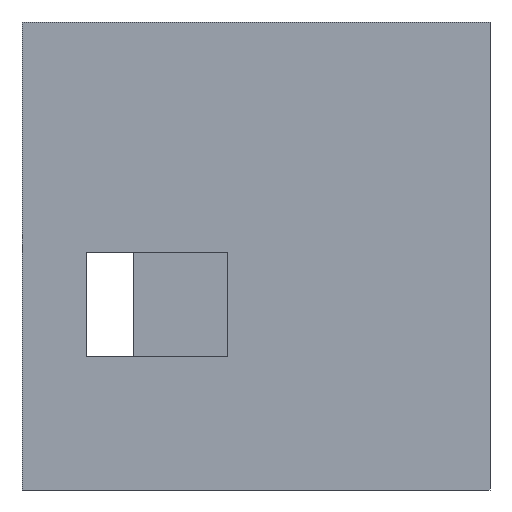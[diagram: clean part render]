
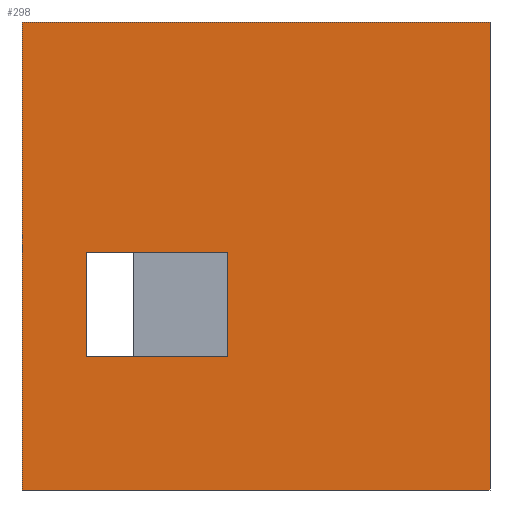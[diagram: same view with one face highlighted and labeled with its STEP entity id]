
A CAD part, front view. The second image highlights one B-rep face of the part: STEP entity #298.
In plain terms, the highlighted planar face has unit normal (0, -1, 0).
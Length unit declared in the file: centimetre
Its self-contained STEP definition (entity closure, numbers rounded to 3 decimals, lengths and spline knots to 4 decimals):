
#9 = LINE ( 'NONE', #518, #332 ) ;
#18 = VERTEX_POINT ( 'NONE', #363 ) ;
#25 = CARTESIAN_POINT ( 'NONE',  ( 137.5001, 0., 285.0967 ) ) ;
#80 = AXIS2_PLACEMENT_3D ( 'NONE', #355, #260, #548 ) ;
#82 = ORIENTED_EDGE ( 'NONE', *, *, #141, .F. ) ;
#83 = CARTESIAN_POINT ( 'NONE',  ( 439.1244, 0., 285.0967 ) ) ;
#95 = CARTESIAN_POINT ( 'NONE',  ( 1000., 0., 0. ) ) ;
#111 = VERTEX_POINT ( 'NONE', #479 ) ;
#122 = EDGE_CURVE ( 'NONE', #211, #483, #9, .T. ) ;
#123 = CARTESIAN_POINT ( 'NONE',  ( 0., 0., 1000. ) ) ;
#132 = DIRECTION ( 'NONE',  ( 0., 0., -1. ) ) ;
#135 = ORIENTED_EDGE ( 'NONE', *, *, #348, .F. ) ;
#137 = CARTESIAN_POINT ( 'NONE',  ( 137.5001, 0., 285.0967 ) ) ;
#138 = VECTOR ( 'NONE', #499, 100. ) ;
#140 = DIRECTION ( 'NONE',  ( 0., 0., -1. ) ) ;
#141 = EDGE_CURVE ( 'NONE', #18, #216, #556, .T. ) ;
#148 = CARTESIAN_POINT ( 'NONE',  ( 0., 0., 0. ) ) ;
#152 = VECTOR ( 'NONE', #140, 100. ) ;
#167 = ORIENTED_EDGE ( 'NONE', *, *, #415, .F. ) ;
#168 = EDGE_CURVE ( 'NONE', #216, #333, #525, .T. ) ;
#179 = CARTESIAN_POINT ( 'NONE',  ( 1000., 0., 1000. ) ) ;
#181 = CARTESIAN_POINT ( 'NONE',  ( 0., 0., 0. ) ) ;
#198 = ORIENTED_EDGE ( 'NONE', *, *, #168, .F. ) ;
#211 = VERTEX_POINT ( 'NONE', #290 ) ;
#216 = VERTEX_POINT ( 'NONE', #179 ) ;
#221 = VECTOR ( 'NONE', #276, 100. ) ;
#236 = CARTESIAN_POINT ( 'NONE',  ( 0., 0., 1000. ) ) ;
#260 = DIRECTION ( 'NONE',  ( 0., 1., 0. ) ) ;
#276 = DIRECTION ( 'NONE',  ( 1., 0., 0. ) ) ;
#290 = CARTESIAN_POINT ( 'NONE',  ( 439.1244, 0., 508.495 ) ) ;
#298 = ADVANCED_FACE ( 'NONE', ( #357, #418 ), #591, .F. ) ;
#303 = EDGE_CURVE ( 'NONE', #18, #396, #542, .T. ) ;
#306 = LINE ( 'NONE', #83, #138 ) ;
#328 = DIRECTION ( 'NONE',  ( -1., 0., 0. ) ) ;
#332 = VECTOR ( 'NONE', #328, 100. ) ;
#333 = VERTEX_POINT ( 'NONE', #95 ) ;
#345 = EDGE_LOOP ( 'NONE', ( #507, #198, #82, #569 ) ) ;
#348 = EDGE_CURVE ( 'NONE', #487, #211, #306, .T. ) ;
#355 = CARTESIAN_POINT ( 'NONE',  ( 0., 0., 1000. ) ) ;
#357 = FACE_BOUND ( 'NONE', #430, .T. ) ;
#363 = CARTESIAN_POINT ( 'NONE',  ( 0., 0., 1000. ) ) ;
#365 = CARTESIAN_POINT ( 'NONE',  ( 1000., 0., 1000. ) ) ;
#366 = CARTESIAN_POINT ( 'NONE',  ( 137.5001, 0., 508.495 ) ) ;
#371 = DIRECTION ( 'NONE',  ( 1., 0., 0. ) ) ;
#377 = VECTOR ( 'NONE', #425, 100. ) ;
#396 = VERTEX_POINT ( 'NONE', #148 ) ;
#409 = VECTOR ( 'NONE', #132, 100. ) ;
#415 = EDGE_CURVE ( 'NONE', #111, #487, #522, .T. ) ;
#418 = FACE_OUTER_BOUND ( 'NONE', #345, .T. ) ;
#425 = DIRECTION ( 'NONE',  ( 0., 0., -1. ) ) ;
#430 = EDGE_LOOP ( 'NONE', ( #167, #506, #444, #135 ) ) ;
#437 = VECTOR ( 'NONE', #568, 100. ) ;
#444 = ORIENTED_EDGE ( 'NONE', *, *, #122, .F. ) ;
#456 = CARTESIAN_POINT ( 'NONE',  ( 439.1244, 0., 285.0967 ) ) ;
#479 = CARTESIAN_POINT ( 'NONE',  ( 137.5001, 0., 285.0967 ) ) ;
#483 = VERTEX_POINT ( 'NONE', #366 ) ;
#487 = VERTEX_POINT ( 'NONE', #456 ) ;
#499 = DIRECTION ( 'NONE',  ( 0., 0., 1. ) ) ;
#506 = ORIENTED_EDGE ( 'NONE', *, *, #587, .F. ) ;
#507 = ORIENTED_EDGE ( 'NONE', *, *, #530, .T. ) ;
#514 = LINE ( 'NONE', #181, #221 ) ;
#518 = CARTESIAN_POINT ( 'NONE',  ( 137.5001, 0., 508.495 ) ) ;
#522 = LINE ( 'NONE', #25, #437 ) ;
#525 = LINE ( 'NONE', #365, #152 ) ;
#530 = EDGE_CURVE ( 'NONE', #396, #333, #514, .T. ) ;
#542 = LINE ( 'NONE', #123, #409 ) ;
#548 = DIRECTION ( 'NONE',  ( 0., 0., 1. ) ) ;
#552 = LINE ( 'NONE', #137, #377 ) ;
#556 = LINE ( 'NONE', #236, #566 ) ;
#566 = VECTOR ( 'NONE', #371, 100. ) ;
#568 = DIRECTION ( 'NONE',  ( 1., 0., 0. ) ) ;
#569 = ORIENTED_EDGE ( 'NONE', *, *, #303, .T. ) ;
#587 = EDGE_CURVE ( 'NONE', #483, #111, #552, .T. ) ;
#591 = PLANE ( 'NONE',  #80 ) ;
